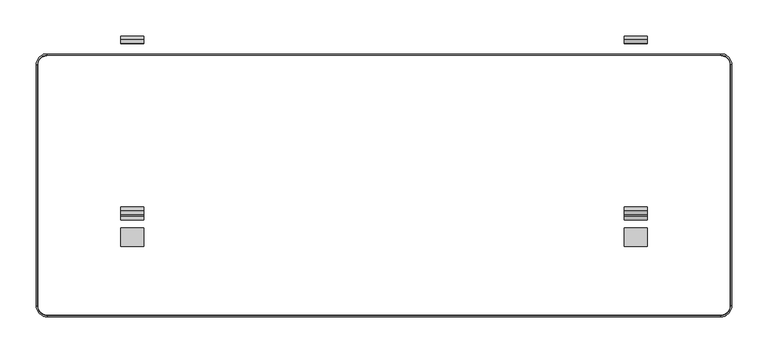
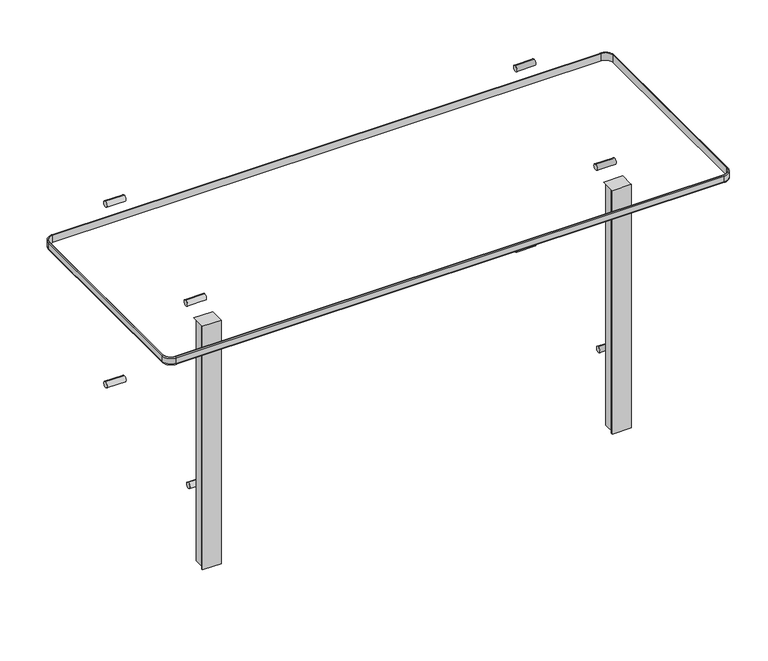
"""IFC4 building model written with IfcOpenShell, lengths in millimetres: proxy geometry, Shower Seat_Metlam_Folding_Support Legs : 960w x 395d x 498h (ML995_CL)."""

from ifc_helpers import new_model, si_unit, point, frame, frame_2d, origin, place, context, project, spatial, polyline, circle_curve, ellipse_curve, trimmed, segment, composite_curve, outline, extrude, source, transform, mapped, element, save
from ifc_brep_helpers import plane_surface, cylinder_surface, revolved_surface, advanced_brep


def specialty_equipment_b47102ea(model_context):
    return source(origin(), model_context, "Body", "SolidModel", [
        advanced_brep(
        [(285.1717474, -600.8995044, 464.4886299), (270.1717474, -615.8995044, 464.4886299), (270.1717474, -614.3995044, 462.9886299), (283.6717474, -600.8995044, 462.9886299), (285.1717474, -600.8995044, 474.5), (270.1717474, -615.8995044, 474.5), (283.6717474, -600.8995044, 476.0), (270.1717474, -614.3995044, 476.0), (282.6717474, -600.8995044, 462.9886299), (270.1717474, -613.3995044, 462.9886299), (270.1717474, -613.3995044, 476.0), (282.6717474, -600.8995044, 476.0), (283.6717474, -267.8538152, 462.9886299), (285.1717474, -267.8538152, 464.4886299), (285.1717474, -267.8538152, 474.5), (283.6717474, -267.8538152, 476.0), (282.6717474, -267.8538152, 476.0), (282.6717474, -267.8538152, 462.9886299), (270.1717474, -252.8538152, 464.4886299), (270.1717474, -254.3538152, 462.9886299), (270.1717474, -252.8538152, 474.5), (270.1717474, -254.3538152, 476.0), (270.1717474, -255.3538152, 462.9886299), (270.1717474, -255.3538152, 476.0), (-659.8282526, -254.3538152, 462.9886299), (-659.8282526, -252.8538152, 464.4886299), (-659.8282526, -252.8538152, 474.5), (-659.8282526, -254.3538152, 476.0), (-659.8282526, -255.3538152, 476.0), (-659.8282526, -255.3538152, 462.9886299), (-674.8282526, -267.8538152, 464.4886299), (-673.3282526, -267.8538152, 462.9886299), (-674.8282526, -267.8538152, 474.5), (-673.3282526, -267.8538152, 476.0), (-672.3282526, -267.8538152, 462.9886299), (-672.3282526, -267.8538152, 476.0), (-673.3282526, -600.8995044, 462.9886299), (-674.8282526, -600.8995044, 464.4886299), (-674.8282526, -600.8995044, 474.5), (-673.3282526, -600.8995044, 476.0), (-672.3282526, -600.8995044, 476.0), (-672.3282526, -600.8995044, 462.9886299), (-659.8282526, -615.8995044, 464.4886299), (-659.8282526, -614.3995044, 462.9886299), (-659.8282526, -615.8995044, 474.5), (-659.8282526, -614.3995044, 476.0), (-659.8282526, -613.3995044, 462.9886299), (-659.8282526, -613.3995044, 476.0)],
        [
            (0, 1, circle_curve(frame((270.1717474, -600.8995044, 464.4886299), z_axis=(0.0, 0.0, -1.0), x_axis=(0.0, -1.0, 0.0)), 15.0)),
            (1, 2, circle_curve(frame((270.1717474, -614.3995044, 464.4886299), z_axis=(1.0, 0.0, 0.0), x_axis=(0.0, 1.0, 0.0)), 1.5)),
            (2, 3, circle_curve(frame((270.1717474, -600.8995044, 462.9886299), z_axis=(0.0, 0.0, 1.0), x_axis=(0.0, -1.0, 0.0)), 13.5)),
            (3, 0, circle_curve(frame((283.6717474, -600.8995044, 464.4886299), z_axis=(0.0, -1.0, 0.0), x_axis=(-1.0, 0.0, 0.0)), 1.5)),
            (4, 5, circle_curve(frame((270.1717474, -600.8995044, 474.5), z_axis=(0.0, 0.0, -1.0), x_axis=(0.0, -1.0, 0.0)), 15.0)),
            (5, 1),
            (0, 4),
            (6, 7, circle_curve(frame((270.1717474, -600.8995044, 476.0), z_axis=(0.0, 0.0, -1.0), x_axis=(0.0, -1.0, 0.0)), 13.5)),
            (7, 5, circle_curve(frame((270.1717474, -614.3995044, 474.5), z_axis=(1.0, 0.0, 0.0), x_axis=(0.0, 1.0, 0.0)), 1.5)),
            (4, 6, circle_curve(frame((283.6717474, -600.8995044, 474.5), z_axis=(0.0, -1.0, 0.0), x_axis=(-1.0, 0.0, 0.0)), 1.5)),
            (8, 9, circle_curve(frame((270.1717474, -600.8995044, 462.9886299), z_axis=(0.0, 0.0, -1.0), x_axis=(0.0, -1.0, 0.0)), 12.5)),
            (9, 10),
            (10, 11, circle_curve(frame((270.1717474, -600.8995044, 476.0), z_axis=(0.0, 0.0, 1.0), x_axis=(0.0, -1.0, 0.0)), 12.5)),
            (11, 8),
            (3, 12),
            (12, 13, circle_curve(frame((283.6717474, -267.8538152, 464.4886299), z_axis=(0.0, -1.0, 0.0), x_axis=(-1.0, 0.0, 0.0)), 1.5)),
            (13, 0),
            (13, 14),
            (14, 4),
            (14, 15, circle_curve(frame((283.6717474, -267.8538152, 474.5), z_axis=(0.0, -1.0, 0.0), x_axis=(-1.0, 0.0, 0.0)), 1.5)),
            (15, 6),
            (11, 16),
            (16, 17),
            (17, 8),
            (18, 13, circle_curve(frame((270.1717474, -267.8538152, 464.4886299), z_axis=(0.0, 0.0, -1.0), x_axis=(1.0, 0.0, 0.0)), 15.0)),
            (12, 19, circle_curve(frame((270.1717474, -267.8538152, 462.9886299), z_axis=(0.0, 0.0, 1.0), x_axis=(1.0, 0.0, 0.0)), 13.5)),
            (19, 18, circle_curve(frame((270.1717474, -254.3538152, 464.4886299), z_axis=(1.0, 0.0, 0.0), x_axis=(0.0, -1.0, 0.0)), 1.5)),
            (20, 14, circle_curve(frame((270.1717474, -267.8538152, 474.5), z_axis=(0.0, 0.0, -1.0), x_axis=(1.0, 0.0, 0.0)), 15.0)),
            (18, 20),
            (21, 15, circle_curve(frame((270.1717474, -267.8538152, 476.0), z_axis=(0.0, 0.0, -1.0), x_axis=(1.0, 0.0, 0.0)), 13.5)),
            (20, 21, circle_curve(frame((270.1717474, -254.3538152, 474.5), z_axis=(1.0, 0.0, 0.0), x_axis=(0.0, -1.0, 0.0)), 1.5)),
            (22, 17, circle_curve(frame((270.1717474, -267.8538152, 462.9886299), z_axis=(0.0, 0.0, -1.0), x_axis=(1.0, 0.0, 0.0)), 12.5)),
            (16, 23, circle_curve(frame((270.1717474, -267.8538152, 476.0), z_axis=(0.0, 0.0, 1.0), x_axis=(1.0, 0.0, 0.0)), 12.5)),
            (23, 22),
            (19, 24),
            (24, 25, circle_curve(frame((-659.8282526, -254.3538152, 464.4886299), z_axis=(1.0, 0.0, 0.0), x_axis=(0.0, -1.0, 0.0)), 1.5)),
            (25, 18),
            (25, 26),
            (26, 20),
            (26, 27, circle_curve(frame((-659.8282526, -254.3538152, 474.5), z_axis=(1.0, 0.0, 0.0), x_axis=(0.0, -1.0, 0.0)), 1.5)),
            (27, 21),
            (23, 28),
            (28, 29),
            (29, 22),
            (30, 25, circle_curve(frame((-659.8282526, -267.8538152, 464.4886299), z_axis=(0.0, 0.0, -1.0), x_axis=(0.0, 1.0, 0.0)), 15.0)),
            (24, 31, circle_curve(frame((-659.8282526, -267.8538152, 462.9886299), z_axis=(0.0, 0.0, 1.0), x_axis=(0.0, 1.0, 0.0)), 13.5)),
            (31, 30, circle_curve(frame((-673.3282526, -267.8538152, 464.4886299), z_axis=(0.0, 1.0, 0.0), x_axis=(1.0, 0.0, 0.0)), 1.5)),
            (32, 26, circle_curve(frame((-659.8282526, -267.8538152, 474.5), z_axis=(0.0, 0.0, -1.0), x_axis=(0.0, 1.0, 0.0)), 15.0)),
            (30, 32),
            (33, 27, circle_curve(frame((-659.8282526, -267.8538152, 476.0), z_axis=(0.0, 0.0, -1.0), x_axis=(0.0, 1.0, 0.0)), 13.5)),
            (32, 33, circle_curve(frame((-673.3282526, -267.8538152, 474.5), z_axis=(0.0, 1.0, 0.0), x_axis=(1.0, 0.0, 0.0)), 1.5)),
            (34, 29, circle_curve(frame((-659.8282526, -267.8538152, 462.9886299), z_axis=(0.0, 0.0, -1.0), x_axis=(0.0, 1.0, 0.0)), 12.5)),
            (28, 35, circle_curve(frame((-659.8282526, -267.8538152, 476.0), z_axis=(0.0, 0.0, 1.0), x_axis=(0.0, 1.0, 0.0)), 12.5)),
            (35, 34),
            (31, 36),
            (36, 37, circle_curve(frame((-673.3282526, -600.8995044, 464.4886299), z_axis=(0.0, 1.0, 0.0), x_axis=(1.0, 0.0, 0.0)), 1.5)),
            (37, 30),
            (37, 38),
            (38, 32),
            (38, 39, circle_curve(frame((-673.3282526, -600.8995044, 474.5), z_axis=(0.0, 1.0, 0.0), x_axis=(1.0, 0.0, 0.0)), 1.5)),
            (39, 33),
            (35, 40),
            (40, 41),
            (41, 34),
            (42, 37, circle_curve(frame((-659.8282526, -600.8995044, 464.4886299), z_axis=(0.0, 0.0, -1.0), x_axis=(-1.0, 0.0, 0.0)), 15.0)),
            (36, 43, circle_curve(frame((-659.8282526, -600.8995044, 462.9886299), z_axis=(0.0, 0.0, 1.0), x_axis=(-1.0, 0.0, 0.0)), 13.5)),
            (43, 42, circle_curve(frame((-659.8282526, -614.3995044, 464.4886299), z_axis=(-1.0, 0.0, 0.0), x_axis=(0.0, 1.0, 0.0)), 1.5)),
            (44, 38, circle_curve(frame((-659.8282526, -600.8995044, 474.5), z_axis=(0.0, 0.0, -1.0), x_axis=(-1.0, 0.0, 0.0)), 15.0)),
            (42, 44),
            (45, 39, circle_curve(frame((-659.8282526, -600.8995044, 476.0), z_axis=(0.0, 0.0, -1.0), x_axis=(-1.0, 0.0, 0.0)), 13.5)),
            (44, 45, circle_curve(frame((-659.8282526, -614.3995044, 474.5), z_axis=(-1.0, 0.0, 0.0), x_axis=(0.0, 1.0, 0.0)), 1.5)),
            (46, 41, circle_curve(frame((-659.8282526, -600.8995044, 462.9886299), z_axis=(0.0, 0.0, -1.0), x_axis=(-1.0, 0.0, 0.0)), 12.5)),
            (40, 47, circle_curve(frame((-659.8282526, -600.8995044, 476.0), z_axis=(0.0, 0.0, 1.0), x_axis=(-1.0, 0.0, 0.0)), 12.5)),
            (47, 46),
            (2, 43),
            (46, 9),
            (1, 42),
            (5, 44),
            (7, 45),
            (10, 47),
        ],
        [
            revolved_surface(trimmed(ellipse_curve(frame((270.1717474, -614.3995044, 464.4886299), z_axis=(-1.0, 0.0, 0.0), x_axis=(0.0, 1.0, 0.0)), 1.5, 1.5), [point((270.1717474, -614.3995044, 462.9886299))], [point((270.1717474, -615.8995044, 464.4886299))], True, "CARTESIAN"), (270.1717474, -600.8995044, 476.0), (0.0, 0.0, 1.0)),
            cylinder_surface(frame((270.1717474, -600.8995044, 476.0), z_axis=(0.0, 0.0, 1.0), x_axis=(0.0, -1.0, 0.0)), 15.0),
            revolved_surface(trimmed(ellipse_curve(frame((270.1717474, -614.3995044, 474.5), z_axis=(-1.0, 0.0, 0.0), x_axis=(0.0, 1.0, 0.0)), 1.5, 1.5), [point((270.1717474, -615.8995044, 474.5))], [point((270.1717474, -614.3995044, 476.0))], True, "CARTESIAN"), (270.1717474, -600.8995044, 476.0), (0.0, 0.0, 1.0)),
            revolved_surface(polyline([(270.1717474, -613.3995044, 476.0), (270.1717474, -613.3995044, 462.9886299)]), (270.1717474, -600.8995044, 476.0), (0.0, 0.0, 1.0)),
            cylinder_surface(frame((283.6717474, -600.8995044, 464.4886299), z_axis=(0.0, -1.0, 0.0), x_axis=(-1.0, 0.0, 0.0)), 1.5),
            plane_surface(frame((285.1717474, -600.8995044, 464.4886299), z_axis=(1.0, 0.0, 0.0), x_axis=(0.0, 1.0, 0.0))),
            cylinder_surface(frame((283.6717474, -600.8995044, 474.5), z_axis=(0.0, -1.0, 0.0), x_axis=(-1.0, 0.0, 0.0)), 1.5),
            plane_surface(frame((282.6717474, -600.8995044, 476.0), z_axis=(-1.0, 0.0, 0.0), x_axis=(0.0, 1.0, 0.0))),
            revolved_surface(trimmed(ellipse_curve(frame((283.6717474, -267.8538152, 464.4886299), z_axis=(0.0, -1.0, 0.0), x_axis=(-1.0, 0.0, 0.0)), 1.5, 1.5), [point((283.6717474, -267.8538152, 462.9886299))], [point((285.1717474, -267.8538152, 464.4886299))], True, "CARTESIAN"), (270.1717474, -267.8538152, 476.0), (0.0, 0.0, 1.0)),
            cylinder_surface(frame((270.1717474, -267.8538152, 476.0), z_axis=(0.0, 0.0, 1.0), x_axis=(1.0, 0.0, 0.0)), 15.0),
            revolved_surface(trimmed(ellipse_curve(frame((283.6717474, -267.8538152, 474.5), z_axis=(0.0, -1.0, 0.0), x_axis=(-1.0, 0.0, 0.0)), 1.5, 1.5), [point((285.1717474, -267.8538152, 474.5))], [point((283.6717474, -267.8538152, 476.0))], True, "CARTESIAN"), (270.1717474, -267.8538152, 476.0), (0.0, 0.0, 1.0)),
            revolved_surface(polyline([(282.6717474, -267.8538152, 476.0), (282.6717474, -267.8538152, 462.9886299)]), (270.1717474, -267.8538152, 476.0), (0.0, 0.0, 1.0)),
            cylinder_surface(frame((270.1717474, -254.3538152, 464.4886299), z_axis=(1.0, 0.0, 0.0), x_axis=(0.0, -1.0, 0.0)), 1.5),
            plane_surface(frame((270.1717474, -252.8538152, 464.4886299), z_axis=(0.0, 1.0, 0.0), x_axis=(-1.0, 0.0, 0.0))),
            cylinder_surface(frame((270.1717474, -254.3538152, 474.5), z_axis=(1.0, 0.0, 0.0), x_axis=(0.0, -1.0, 0.0)), 1.5),
            plane_surface(frame((270.1717474, -255.3538152, 476.0), z_axis=(0.0, -1.0, 0.0), x_axis=(-1.0, 0.0, 0.0))),
            revolved_surface(trimmed(ellipse_curve(frame((-659.8282526, -254.3538152, 464.4886299), z_axis=(1.0, 0.0, 0.0), x_axis=(0.0, -1.0, 0.0)), 1.5, 1.5), [point((-659.8282526, -254.3538152, 462.9886299))], [point((-659.8282526, -252.8538152, 464.4886299))], True, "CARTESIAN"), (-659.8282526, -267.8538152, 476.0), (0.0, 0.0, 1.0)),
            cylinder_surface(frame((-659.8282526, -267.8538152, 476.0), z_axis=(0.0, 0.0, 1.0), x_axis=(0.0, 1.0, 0.0)), 15.0),
            revolved_surface(trimmed(ellipse_curve(frame((-659.8282526, -254.3538152, 474.5), z_axis=(1.0, 0.0, 0.0), x_axis=(0.0, -1.0, 0.0)), 1.5, 1.5), [point((-659.8282526, -252.8538152, 474.5))], [point((-659.8282526, -254.3538152, 476.0))], True, "CARTESIAN"), (-659.8282526, -267.8538152, 476.0), (0.0, 0.0, 1.0)),
            revolved_surface(polyline([(-659.8282526, -255.35381519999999, 476.0), (-659.8282526, -255.35381519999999, 462.9886299)]), (-659.8282526, -267.8538152, 476.0), (0.0, 0.0, 1.0)),
            cylinder_surface(frame((-673.3282526, -267.8538152, 464.4886299), z_axis=(0.0, 1.0, 0.0), x_axis=(1.0, 0.0, 0.0)), 1.5),
            plane_surface(frame((-674.8282526, -267.8538152, 464.4886299), z_axis=(-1.0, 0.0, 0.0), x_axis=(0.0, -1.0, 0.0))),
            cylinder_surface(frame((-673.3282526, -267.8538152, 474.5), z_axis=(0.0, 1.0, 0.0), x_axis=(1.0, 0.0, 0.0)), 1.5),
            plane_surface(frame((-672.3282526, -267.8538152, 476.0), z_axis=(1.0, 0.0, 0.0), x_axis=(0.0, -1.0, 0.0))),
            revolved_surface(trimmed(ellipse_curve(frame((-673.3282526, -600.8995044, 464.4886299), z_axis=(0.0, 1.0, 0.0), x_axis=(1.0, 0.0, 0.0)), 1.5, 1.5), [point((-673.3282526, -600.8995044, 462.9886299))], [point((-674.8282526, -600.8995044, 464.4886299))], True, "CARTESIAN"), (-659.8282526, -600.8995044, 476.0), (0.0, 0.0, 1.0)),
            cylinder_surface(frame((-659.8282526, -600.8995044, 476.0), z_axis=(0.0, 0.0, 1.0), x_axis=(-1.0, 0.0, 0.0)), 15.0),
            revolved_surface(trimmed(ellipse_curve(frame((-673.3282526, -600.8995044, 474.5), z_axis=(0.0, 1.0, 0.0), x_axis=(1.0, 0.0, 0.0)), 1.5, 1.5), [point((-674.8282526, -600.8995044, 474.5))], [point((-673.3282526, -600.8995044, 476.0))], True, "CARTESIAN"), (-659.8282526, -600.8995044, 476.0), (0.0, 0.0, 1.0)),
            revolved_surface(polyline([(-672.3282526, -600.8995044, 476.0), (-672.3282526, -600.8995044, 462.9886299)]), (-659.8282526, -600.8995044, 476.0), (0.0, 0.0, 1.0)),
            plane_surface(frame((-659.8282526, -613.3995044, 462.9886299), z_axis=(0.0, 0.0, -1.0), x_axis=(1.0, 0.0, 0.0))),
            cylinder_surface(frame((-659.8282526, -614.3995044, 464.4886299), z_axis=(-1.0, 0.0, 0.0), x_axis=(0.0, 1.0, 0.0)), 1.5),
            plane_surface(frame((-659.8282526, -615.8995044, 464.4886299), z_axis=(0.0, -1.0, 0.0), x_axis=(1.0, 0.0, 0.0))),
            cylinder_surface(frame((-659.8282526, -614.3995044, 474.5), z_axis=(-1.0, 0.0, 0.0), x_axis=(0.0, 1.0, 0.0)), 1.5),
            plane_surface(frame((-659.8282526, -614.3995044, 476.0), z_axis=(0.0, 0.0, 1.0), x_axis=(1.0, 0.0, 0.0))),
            plane_surface(frame((-659.8282526, -613.3995044, 476.0), z_axis=(0.0, 1.0, 0.0), x_axis=(1.0, 0.0, 0.0))),
        ],
        [
            (0, [[1, 2, 3, 4]]),
            (1, [[5, 6, -1, 7]]),
            (2, [[8, 9, -5, 10]]),
            (3, [[11, 12, 13, 14]]),
            (4, [[-4, 15, 16, 17]]),
            (5, [[-7, -17, 18, 19]]),
            (6, [[-10, -19, 20, 21]]),
            (7, [[-14, 22, 23, 24]]),
            (8, [[25, -16, 26, 27]]),
            (9, [[28, -18, -25, 29]]),
            (10, [[30, -20, -28, 31]]),
            (11, [[32, -23, 33, 34]]),
            (12, [[-27, 35, 36, 37]]),
            (13, [[-29, -37, 38, 39]]),
            (14, [[-31, -39, 40, 41]]),
            (15, [[-34, 42, 43, 44]]),
            (16, [[45, -36, 46, 47]]),
            (17, [[48, -38, -45, 49]]),
            (18, [[50, -40, -48, 51]]),
            (19, [[52, -43, 53, 54]]),
            (20, [[-47, 55, 56, 57]]),
            (21, [[-49, -57, 58, 59]]),
            (22, [[-51, -59, 60, 61]]),
            (23, [[-54, 62, 63, 64]]),
            (24, [[65, -56, 66, 67]]),
            (25, [[68, -58, -65, 69]]),
            (26, [[70, -60, -68, 71]]),
            (27, [[72, -63, 73, 74]]),
            (28, [[75, -66, -55, -46, -35, -26, -15, -3], [-64, -72, 76, -11, -24, -32, -44, -52]]),
            (29, [[-67, -75, -2, 77]]),
            (30, [[-69, -77, -6, 78]]),
            (31, [[-71, -78, -9, 79]]),
            (32, [[-61, -70, -79, -8, -21, -30, -41, -50], [80, -73, -62, -53, -42, -33, -22, -13]]),
            (33, [[-74, -80, -12, -76]]),
        ],
    ),
        advanced_brep(
        [(-526.3282526, -493.4976949, 436.5321543), (-558.3282526, -493.4976949, 436.5321543), (-558.3282526, -515.9976949, 436.5321543), (-558.3282526, -518.4976949, 436.5321543), (-526.3282526, -518.4976949, 436.5321543), (-526.3282526, -515.9976949, 436.5321543), (-526.3282526, -518.4976949, 0.0), (-558.3282526, -518.4976949, 0.0), (-558.3282526, -515.9976949, 0.0), (-554.8282526, -515.9976949, 0.0), (-554.8282526, -493.4976949, 0.0), (-529.8282526, -493.4976949, 0.0), (-529.8282526, -515.9976949, 0.0), (-526.3282526, -515.9976949, 0.0), (-529.8282526, -493.4976949, 433.0321543), (-554.8282526, -493.4976949, 433.0321543), (-529.8282526, -515.9976949, 433.0321543), (-554.8282526, -515.9976949, 433.0321543)],
        [
            (0, 1),
            (1, 2),
            (2, 3),
            (3, 4),
            (4, 5),
            (5, 0),
            (6, 7),
            (7, 8),
            (8, 9),
            (9, 10),
            (10, 11),
            (11, 12),
            (12, 13),
            (13, 6),
            (4, 6),
            (13, 5),
            (0, 14, circle_curve(frame((-526.3282526, -493.4976949, 433.0321543), z_axis=(0.0, -1.0, 0.0), x_axis=(-1.0, 0.0, 0.0)), 3.5)),
            (14, 11),
            (10, 15),
            (15, 1, circle_curve(frame((-558.3282526, -493.4976949, 433.0321543), z_axis=(0.0, -1.0, 0.0), x_axis=(-1.0, 0.0, 0.0)), 3.5)),
            (7, 3),
            (2, 8),
            (16, 5, circle_curve(frame((-526.3282526, -515.9976949, 433.0321543), z_axis=(0.0, 1.0, 0.0), x_axis=(-1.0, 0.0, 0.0)), 3.5)),
            (12, 16),
            (17, 9),
            (2, 17, circle_curve(frame((-558.3282526, -515.9976949, 433.0321543), z_axis=(0.0, 1.0, 0.0), x_axis=(-1.0, 0.0, 0.0)), 3.5)),
            (16, 14),
            (17, 15),
        ],
        [
            plane_surface(frame((-526.3282526, -518.4976949, 436.5321543), z_axis=(0.0, 0.0, 1.0), x_axis=(0.0, 1.0, 0.0))),
            plane_surface(frame((-526.3282526, -518.4976949, 0.0), z_axis=(0.0, 0.0, -1.0), x_axis=(0.0, -1.0, 0.0))),
            plane_surface(frame((-526.3282526, -518.4976949, 436.5321543), z_axis=(1.0, 0.0, 0.0), x_axis=(0.0, 0.0, -1.0))),
            plane_surface(frame((-526.3282526, -493.4976949, 436.5321543), z_axis=(0.0, 1.0, 0.0), x_axis=(0.0, 0.0, -1.0))),
            plane_surface(frame((-558.3282526, -493.4976949, 436.5321543), z_axis=(-1.0, 0.0, 0.0), x_axis=(0.0, 0.0, -1.0))),
            plane_surface(frame((-558.3282526, -518.4976949, 436.5321543), z_axis=(0.0, -1.0, 0.0), x_axis=(0.0, 0.0, -1.0))),
            plane_surface(frame((-529.8282526, -515.9976949, 433.0321543), z_axis=(0.0, 1.0, 0.0), x_axis=(0.0, 0.0, -1.0))),
            revolved_surface(polyline([(-529.8282526, -493.4976949, 433.0321543), (-529.8282526, -515.9976949, 433.0321543)]), (-526.3282526, -515.9976949, 433.0321543), (0.0, 1.0, 0.0)),
            plane_surface(frame((-529.8282526, -490.9976949, 0.0), z_axis=(1.0, 0.0, 0.0), x_axis=(0.0, -1.0, 0.0))),
            plane_surface(frame((-554.8282526, -490.9976949, 433.0321543), z_axis=(-1.0, 0.0, 0.0), x_axis=(0.0, -1.0, 0.0))),
            revolved_surface(polyline([(-561.8282526, -493.4976949, 433.0321543), (-561.8282526, -515.9976949, 433.0321543)]), (-558.3282526, -615.8995044, 433.0321543), (0.0, 1.0, 0.0)),
        ],
        [
            (0, [[1, 2, 3, 4, 5, 6]]),
            (1, [[7, 8, 9, 10, 11, 12, 13, 14]]),
            (2, [[15, -14, 16, -5]]),
            (3, [[-1, 17, 18, -11, 19, 20]]),
            (4, [[21, -3, 22, -8]]),
            (5, [[-4, -21, -7, -15]]),
            (6, [[23, -16, -13, 24]]),
            (6, [[25, -9, -22, 26]]),
            (7, [[-23, 27, -17, -6]]),
            (8, [[-24, -12, -18, -27]]),
            (9, [[-25, 28, -19, -10]]),
            (10, [[-26, -2, -20, -28]]),
        ],
    ),
        advanced_brep(
        [(136.6717474, -518.4976949, 436.5321543), (168.6717474, -518.4976949, 436.5321543), (168.6717474, -515.9976949, 436.5321543), (168.6717474, -493.4976949, 436.5321543), (136.6717474, -493.4976949, 436.5321543), (136.6717474, -515.9976949, 436.5321543), (168.6717474, -518.4976949, 0.0), (136.6717474, -518.4976949, 0.0), (136.6717474, -515.9976949, 0.0), (140.1717474, -515.9976949, 0.0), (140.1717474, -493.4976949, 0.0), (165.1717474, -493.4976949, 0.0), (165.1717474, -515.9976949, 0.0), (168.6717474, -515.9976949, 0.0), (165.1717474, -493.4976949, 433.0321543), (140.1717474, -493.4976949, 433.0321543), (140.1717474, -515.9976949, 433.0321543), (165.1717474, -515.9976949, 433.0321543)],
        [
            (0, 1),
            (1, 2),
            (2, 3),
            (3, 4),
            (4, 5),
            (5, 0),
            (6, 7),
            (7, 8),
            (8, 9),
            (9, 10),
            (10, 11),
            (11, 12),
            (12, 13),
            (13, 6),
            (0, 7),
            (6, 1),
            (13, 2),
            (3, 14, circle_curve(frame((168.6717474, -493.4976949, 433.0321543), z_axis=(0.0, -1.0, 0.0), x_axis=(-1.0, 0.0, 0.0)), 3.5)),
            (14, 11),
            (10, 15),
            (15, 4, circle_curve(frame((136.6717474, -493.4976949, 433.0321543), z_axis=(0.0, -1.0, 0.0), x_axis=(-1.0, 0.0, 0.0)), 3.5)),
            (5, 8),
            (16, 9),
            (5, 16, circle_curve(frame((136.6717474, -515.9976949, 433.0321543), z_axis=(0.0, 1.0, 0.0), x_axis=(-1.0, 0.0, 0.0)), 3.5)),
            (17, 2, circle_curve(frame((168.6717474, -515.9976949, 433.0321543), z_axis=(0.0, 1.0, 0.0), x_axis=(-1.0, 0.0, 0.0)), 3.5)),
            (12, 17),
            (16, 15),
            (17, 14),
        ],
        [
            plane_surface(frame((-526.3282526, -518.4976949, 436.5321543), z_axis=(0.0, 0.0, 1.0), x_axis=(0.0, 1.0, 0.0))),
            plane_surface(frame((-526.3282526, -518.4976949, 0.0), z_axis=(0.0, 0.0, -1.0), x_axis=(0.0, -1.0, 0.0))),
            plane_surface(frame((136.6717474, -518.4976949, 436.5321543), z_axis=(0.0, -1.0, 0.0), x_axis=(0.0, 0.0, -1.0))),
            plane_surface(frame((168.6717474, -518.4976949, 436.5321543), z_axis=(1.0, 0.0, 0.0), x_axis=(0.0, 0.0, -1.0))),
            plane_surface(frame((168.6717474, -493.4976949, 436.5321543), z_axis=(0.0, 1.0, 0.0), x_axis=(0.0, 0.0, -1.0))),
            plane_surface(frame((136.6717474, -493.4976949, 436.5321543), z_axis=(-1.0, 0.0, 0.0), x_axis=(0.0, 0.0, -1.0))),
            plane_surface(frame((-529.8282526, -515.9976949, 433.0321543), z_axis=(0.0, 1.0, 0.0), x_axis=(0.0, 0.0, -1.0))),
            plane_surface(frame((140.1717474, -490.9976949, 433.0321543), z_axis=(-1.0, 0.0, 0.0), x_axis=(0.0, -1.0, 0.0))),
            revolved_surface(polyline([(133.1717474, -493.4976949, 433.0321543), (133.1717474, -515.9976949, 433.0321543)]), (136.6717474, -615.8995044, 433.0321543), (0.0, 1.0, 0.0)),
            revolved_surface(polyline([(165.1717474, -493.4976949, 433.0321543), (165.1717474, -515.9976949, 433.0321543)]), (168.6717474, -615.8995044, 433.0321543), (0.0, 1.0, 0.0)),
            plane_surface(frame((165.1717474, -490.9976949, 0.0), z_axis=(1.0, 0.0, 0.0), x_axis=(0.0, -1.0, 0.0))),
        ],
        [
            (0, [[1, 2, 3, 4, 5, 6]]),
            (1, [[7, 8, 9, 10, 11, 12, 13, 14]]),
            (2, [[-1, 15, -7, 16]]),
            (3, [[-16, -14, 17, -2]]),
            (4, [[-4, 18, 19, -11, 20, 21]]),
            (5, [[-15, -6, 22, -8]]),
            (6, [[23, -9, -22, 24]]),
            (6, [[25, -17, -13, 26]]),
            (7, [[-23, 27, -20, -10]]),
            (8, [[-24, -5, -21, -27]]),
            (9, [[-25, 28, -18, -3]]),
            (10, [[-26, -12, -19, -28]]),
        ],
    ),
        extrude(outline(composite_curve([segment(trimmed(circle_curve(frame_2d((-476.9976949, 126.6467154)), 5.0), [point((-476.9976949, 121.6467154))], [point((-476.9976949, 131.6467154))], False, "CARTESIAN"), True, "CONTINUOUS"), segment(trimmed(circle_curve(frame_2d((-476.9976949, 126.6467154)), 5.0), [point((-476.9976949, 131.6467154))], [point((-476.9976949, 121.6467154))], False, "CARTESIAN"), True, "CONTINUOUS")], self_intersect=False)), frame((-558.3282526, 0.0, 0.0), z_axis=(1.0, 0.0, 0.0), x_axis=(0.0, 1.0, 0.0)), (0.0, 0.0, 1.0), 32.0),
        extrude(outline(composite_curve([segment(trimmed(circle_curve(frame_2d((-476.9976949, 126.6467154)), 5.0), [point((-476.9976949, 121.6467154))], [point((-476.9976949, 131.6467154))], False, "CARTESIAN"), True, "CONTINUOUS"), segment(trimmed(circle_curve(frame_2d((-476.9976949, 126.6467154)), 5.0), [point((-476.9976949, 131.6467154))], [point((-476.9976949, 121.6467154))], False, "CARTESIAN"), True, "CONTINUOUS")], self_intersect=False)), frame((136.6717474, 0.0, 0.0), z_axis=(1.0, 0.0, 0.0), x_axis=(0.0, 1.0, 0.0)), (0.0, 0.0, 1.0), 32.0),
        extrude(outline(composite_curve([segment(trimmed(circle_curve(frame_2d((-233.6780229, 159.423383)), 5.0), [point((-233.6780229, 154.423383))], [point((-233.6780229, 164.423383))], False, "CARTESIAN"), True, "CONTINUOUS"), segment(trimmed(circle_curve(frame_2d((-233.6780229, 159.423383)), 5.0), [point((-233.6780229, 164.423383))], [point((-233.6780229, 154.423383))], False, "CARTESIAN"), True, "CONTINUOUS")], self_intersect=False)), frame((-558.3282526, 0.0, 0.0), z_axis=(1.0, 0.0, 0.0), x_axis=(0.0, 1.0, 0.0)), (0.0, 0.0, 1.0), 32.0),
        extrude(outline(composite_curve([segment(trimmed(circle_curve(frame_2d((-233.1812972, 482.7942245)), 5.0), [point((-233.1812972, 477.7942245))], [point((-233.1812972, 487.7942245))], False, "CARTESIAN"), True, "CONTINUOUS"), segment(trimmed(circle_curve(frame_2d((-233.1812972, 482.7942245)), 5.0), [point((-233.1812972, 487.7942245))], [point((-233.1812972, 477.7942245))], False, "CARTESIAN"), True, "CONTINUOUS")], self_intersect=False)), frame((-558.3282526, 0.0, 0.0), z_axis=(1.0, 0.0, 0.0), x_axis=(0.0, 1.0, 0.0)), (0.0, 0.0, 1.0), 32.0),
        extrude(outline(composite_curve([segment(trimmed(circle_curve(frame_2d((-469.5088642, 449.1337957)), 5.0), [point((-469.5088642, 444.1337957))], [point((-469.5088642, 454.1337957))], False, "CARTESIAN"), True, "CONTINUOUS"), segment(trimmed(circle_curve(frame_2d((-469.5088642, 449.1337957)), 5.0), [point((-469.5088642, 454.1337957))], [point((-469.5088642, 444.1337957))], False, "CARTESIAN"), True, "CONTINUOUS")], self_intersect=False)), frame((-558.3282526, 0.0, 0.0), z_axis=(1.0, 0.0, 0.0), x_axis=(0.0, 1.0, 0.0)), (0.0, 0.0, 1.0), 32.0),
        extrude(outline(composite_curve([segment(trimmed(circle_curve(frame_2d((-233.6780229, 159.423383)), 5.0), [point((-233.6780229, 154.423383))], [point((-233.6780229, 164.423383))], False, "CARTESIAN"), True, "CONTINUOUS"), segment(trimmed(circle_curve(frame_2d((-233.6780229, 159.423383)), 5.0), [point((-233.6780229, 164.423383))], [point((-233.6780229, 154.423383))], False, "CARTESIAN"), True, "CONTINUOUS")], self_intersect=False)), frame((136.6717474, 0.0, 0.0), z_axis=(1.0, 0.0, 0.0), x_axis=(0.0, 1.0, 0.0)), (0.0, 0.0, 1.0), 32.0),
        extrude(outline(composite_curve([segment(trimmed(circle_curve(frame_2d((-233.1812972, 482.7942245)), 5.0), [point((-233.1812972, 477.7942245))], [point((-233.1812972, 487.7942245))], False, "CARTESIAN"), True, "CONTINUOUS"), segment(trimmed(circle_curve(frame_2d((-233.1812972, 482.7942245)), 5.0), [point((-233.1812972, 487.7942245))], [point((-233.1812972, 477.7942245))], False, "CARTESIAN"), True, "CONTINUOUS")], self_intersect=False)), frame((136.6717474, 0.0, 0.0), z_axis=(1.0, 0.0, 0.0), x_axis=(0.0, 1.0, 0.0)), (0.0, 0.0, 1.0), 32.0),
        extrude(outline(composite_curve([segment(trimmed(circle_curve(frame_2d((-469.5088642, 449.1337957)), 5.0), [point((-469.5088642, 444.1337957))], [point((-469.5088642, 454.1337957))], False, "CARTESIAN"), True, "CONTINUOUS"), segment(trimmed(circle_curve(frame_2d((-469.5088642, 449.1337957)), 5.0), [point((-469.5088642, 454.1337957))], [point((-469.5088642, 444.1337957))], False, "CARTESIAN"), True, "CONTINUOUS")], self_intersect=False)), frame((136.6717474, 0.0, 0.0), z_axis=(1.0, 0.0, 0.0), x_axis=(0.0, 1.0, 0.0)), (0.0, 0.0, 1.0), 32.0),
    ])


if __name__ == "__main__":
    model = new_model("IFC4")
    model_context = context("Model", 3, world=origin())
    ifc_project = project(units=[si_unit("LENGTHUNIT", "METRE", prefix="MILLI")], contexts=[model_context])
    site = spatial("IfcSite", under=ifc_project)
    building = spatial("IfcBuilding", under=site)
    placement = place(None, origin())
    specialty_equipment_shape = specialty_equipment_b47102ea(model_context)
    element("IfcBuildingElementProxy", 1, Name="Shower Seat_Metlam_Folding_Support Legs : 960w x 395d x 498h (ML995_CL)", ObjectType="Shower Seat_Metlam_Folding_Support Legs : 960w x 395d x 498h (ML995_CL)", at=placement, inside=building, context=model_context, shape_type="MappedRepresentation", body=[
        mapped(specialty_equipment_shape, transform((0.0, 0.0, 0.0), x_axis=(1.0, 0.0, 0.0), y_axis=(0.0, 1.0, 0.0), z_axis=(0.0, 0.0, 1.0))),
    ])
    save(model, "model.ifc")
